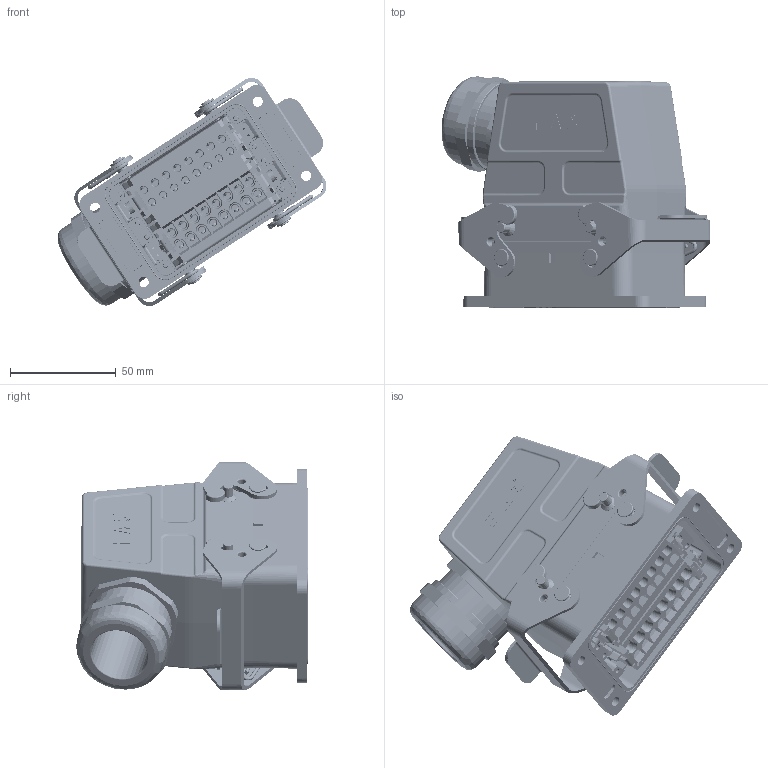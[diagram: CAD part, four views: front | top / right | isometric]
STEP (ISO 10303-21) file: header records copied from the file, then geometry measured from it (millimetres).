
FILE_DESCRIPTION (( 'STEP AP214' ), '1' );
FILE_NAME ('09032001132M HA32 HA、32针、开孔底座、侧出M32套件、配金属接头.STEP', '2024-05-07T02:48:00', ( 'L' ), ( '' ), 'SwSTEP 2.0', 'SolidWorks 2019', '' );
FILE_SCHEMA (( 'AUTOMOTIVE_DESIGN' ));
Length unit declared in the file: millimetre
Products named in the file (17): 32ashuangkou.STEP.STEP; HA-016-MD(17-32).step.STEP; HA-016-FD(17-32).step.STEP; H32A-TS-M32.step.STEP; h32a-kk.STEP.STEP; 09032001132 HA32 HA、32针、开孔底座、侧出M32套件.STEP; asm0001.STEP.STEP; H32A-AG.STEP.STEP; 32akouzi.STEP.STEP; FAS-32-M.step; maoding_1.STEP.STEP; 32akouzi.STEP-1.STEP; 09032001132M HA32 HA、32针、开孔底座、侧出M32套件、配金属接头; tanhuang_1.STEP.STEP; ____6.STEP.STEP; HA-016-M.stp.STEP; HA-016-F.stp.STEP
Assembly tree (23 placements, depth 5):
  09032001132M HA32 HA、32针、开孔底座、侧出M32套件、配金属接头
    09032001132 HA32 HA、32针、开孔底座、侧出M32套件.STEP
      H32A-AG.STEP.STEP
        asm0001.STEP.STEP
          ____6.STEP.STEP
        32akouzi.STEP.STEP
          32ashuangkou.STEP.STEP
          tanhuang_1.STEP.STEP  x2
          maoding_1.STEP.STEP  x2
        32akouzi.STEP-1.STEP
          32ashuangkou.STEP.STEP
          tanhuang_1.STEP.STEP  x2
          maoding_1.STEP.STEP  x2
        h32a-kk.STEP.STEP
      HA-016-M.stp.STEP
      HA-016-F.stp.STEP
      HA-016-FD(17-32).step.STEP
      HA-016-MD(17-32).step.STEP
      H32A-TS-M32.step.STEP
    FAS-32-M.step
Bounding box: 127.39 x 109.64 x 108.12 mm (x, y, z)
Volume: 260693.1 mm3; surface area: 163681.7 mm2
Topology: 18 solids, 18 shells, 6870 faces, 18205 edges, 11738 vertices
Faces by surface type: plane 3570, cylinder 1716, cone 624, bspline 546, torus 284, sphere 130
Entity records: 255216 total; most frequent: CARTESIAN_POINT 64838, ORIENTED_EDGE 35016, DIRECTION 31992, EDGE_CURVE 17508, VERTEX_POINT 11376, AXIS2_PLACEMENT_3D 10808, LINE 10376, VECTOR 10376
